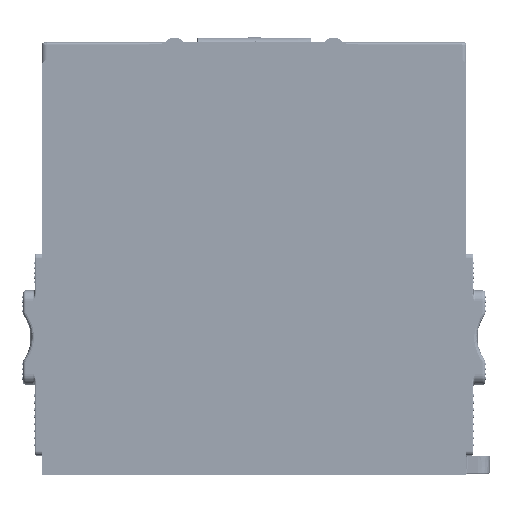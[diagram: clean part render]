
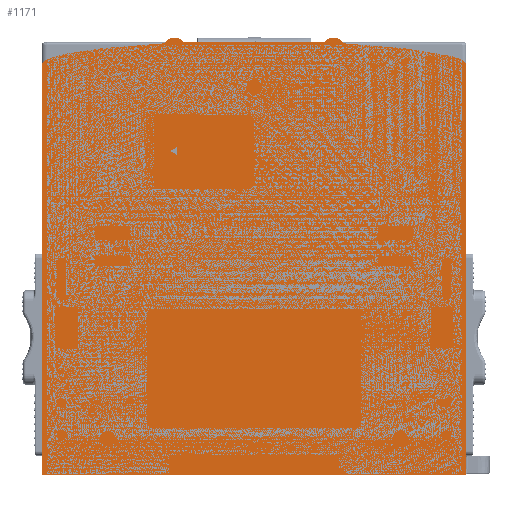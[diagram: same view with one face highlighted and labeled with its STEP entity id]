
A CAD part, left-side view. The second image highlights one B-rep face of the part: STEP entity #1171.
In plain terms, the highlighted planar face has unit normal (-1, 0, 0).
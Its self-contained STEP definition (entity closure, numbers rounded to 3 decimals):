
#16=DIRECTION('',(0.,-1.,0.));
#17=VECTOR('',#16,90.);
#18=CARTESIAN_POINT('',(-115.,45.,0.));
#19=LINE('',#18,#17);
#45=CARTESIAN_POINT('',(-115.,14.855,91.72));
#46=CARTESIAN_POINT('',(-115.,4.952,92.105));
#47=CARTESIAN_POINT('',(-115.,-4.952,92.105));
#48=CARTESIAN_POINT('',(-115.,-14.855,91.72));
#53=CARTESIAN_POINT('',(-115.,-16.865,90.232));
#54=DIRECTION('',(-1.,0.,0.));
#55=DIRECTION('',(0.,-0.854,0.52));
#56=AXIS2_PLACEMENT_3D('',#53,#54,#55);
#61=CARTESIAN_POINT('',(-115.,-19.,91.532));
#62=CARTESIAN_POINT('',(-115.,-21.432,91.407));
#63=CARTESIAN_POINT('',(-115.,-25.037,91.177));
#64=CARTESIAN_POINT('',(-115.,-29.732,90.765));
#65=CARTESIAN_POINT('',(-115.,-33.186,90.392));
#66=CARTESIAN_POINT('',(-115.,-35.993,90.014));
#67=CARTESIAN_POINT('',(-115.,-38.178,89.654));
#68=CARTESIAN_POINT('',(-115.,-39.779,89.348));
#69=CARTESIAN_POINT('',(-115.,-41.329,88.993));
#70=CARTESIAN_POINT('',(-115.,-42.559,88.64));
#71=CARTESIAN_POINT('',(-115.,-43.482,88.298));
#72=CARTESIAN_POINT('',(-115.,-44.127,87.998));
#73=CARTESIAN_POINT('',(-115.,-44.606,87.691));
#74=CARTESIAN_POINT('',(-115.,-44.901,87.363));
#75=CARTESIAN_POINT('',(-115.,-45.,87.152));
#76=CARTESIAN_POINT('',(-115.,-45.,87.));
#81=DIRECTION('',(0.,0.,1.));
#82=VECTOR('',#81,87.);
#83=CARTESIAN_POINT('',(-115.,45.,0.));
#84=LINE('',#83,#82);
#88=CARTESIAN_POINT('',(-115.,45.,87.));
#89=CARTESIAN_POINT('',(-115.,45.,87.152));
#90=CARTESIAN_POINT('',(-115.,44.901,87.363));
#91=CARTESIAN_POINT('',(-115.,44.606,87.691));
#92=CARTESIAN_POINT('',(-115.,44.127,87.998));
#93=CARTESIAN_POINT('',(-115.,43.482,88.298));
#94=CARTESIAN_POINT('',(-115.,42.559,88.64));
#95=CARTESIAN_POINT('',(-115.,41.329,88.993));
#96=CARTESIAN_POINT('',(-115.,39.779,89.348));
#97=CARTESIAN_POINT('',(-115.,38.178,89.654));
#98=CARTESIAN_POINT('',(-115.,35.993,90.014));
#99=CARTESIAN_POINT('',(-115.,33.186,90.392));
#100=CARTESIAN_POINT('',(-115.,29.732,90.765));
#101=CARTESIAN_POINT('',(-115.,25.037,91.177));
#102=CARTESIAN_POINT('',(-115.,21.432,91.407));
#103=CARTESIAN_POINT('',(-115.,19.,91.532));
#108=CARTESIAN_POINT('',(-115.,16.865,90.232));
#109=DIRECTION('',(-1.,0.,0.));
#110=DIRECTION('',(0.,-0.804,0.595));
#111=AXIS2_PLACEMENT_3D('',#108,#109,#110);
#351=DIRECTION('',(0.,0.,1.));
#352=VECTOR('',#351,87.);
#353=CARTESIAN_POINT('',(-115.,-45.,0.));
#354=LINE('',#353,#352);
#985=CARTESIAN_POINT('',(-115.,45.,0.));
#986=CARTESIAN_POINT('',(-115.,-45.,0.));
#987=VERTEX_POINT('',#985);
#988=VERTEX_POINT('',#986);
#1021=CARTESIAN_POINT('',(-115.,45.,87.));
#1022=VERTEX_POINT('',#1021);
#1023=CARTESIAN_POINT('',(-115.,-45.,87.));
#1024=VERTEX_POINT('',#1023);
#1061=VERTEX_POINT('',#103);
#1062=VERTEX_POINT('',#45);
#1063=VERTEX_POINT('',#48);
#1064=VERTEX_POINT('',#61);
#1149=CARTESIAN_POINT('',(-115.,45.,0.));
#1150=DIRECTION('',(-1.,0.,0.));
#1151=DIRECTION('',(0.,-1.,0.));
#1152=AXIS2_PLACEMENT_3D('',#1149,#1150,#1151);
#1153=PLANE('',#1152);
#1155=ORIENTED_EDGE('',*,*,#1154,.T.);
#1157=ORIENTED_EDGE('',*,*,#1156,.F.);
#1159=ORIENTED_EDGE('',*,*,#1158,.T.);
#1161=ORIENTED_EDGE('',*,*,#1160,.F.);
#1162=ORIENTED_EDGE('',*,*,#1138,.F.);
#1164=ORIENTED_EDGE('',*,*,#1163,.T.);
#1166=ORIENTED_EDGE('',*,*,#1165,.T.);
#1168=ORIENTED_EDGE('',*,*,#1167,.F.);
#1169=EDGE_LOOP('',(#1155,#1157,#1159,#1161,#1162,#1164,#1166,#1168));
#1170=FACE_OUTER_BOUND('',#1169,.F.);
#49=B_SPLINE_CURVE_WITH_KNOTS('',3,(#45,#46,#47,#48),.UNSPECIFIED.,.F.,.F.,(4,
4),(0.,1.),.UNSPECIFIED.);
#57=CIRCLE('',#56,2.5);
#77=B_SPLINE_CURVE_WITH_KNOTS('',3,(#61,#62,#63,#64,#65,#66,#67,#68,#69,#70,#71,
#72,#73,#74,#75,#76),.UNSPECIFIED.,.F.,.F.,(4,1,1,1,1,1,1,1,1,1,1,1,1,4),(0.,
0.25,0.375,0.5,0.625,0.688,0.75,0.813,0.875,0.906,
0.938,0.969,0.984,1.),.UNSPECIFIED.);
#104=B_SPLINE_CURVE_WITH_KNOTS('',3,(#88,#89,#90,#91,#92,#93,#94,#95,#96,#97,
#98,#99,#100,#101,#102,#103),.UNSPECIFIED.,.F.,.F.,(4,1,1,1,1,1,1,1,1,1,1,1,1,
4),(0.,0.016,0.031,0.063,0.094,0.125,0.188,0.25,0.313,
0.375,0.5,0.625,0.75,1.),.UNSPECIFIED.);
#112=CIRCLE('',#111,2.5);
#1138=EDGE_CURVE('',#987,#988,#19,.T.);
#1154=EDGE_CURVE('',#1062,#1063,#49,.T.);
#1156=EDGE_CURVE('',#1064,#1063,#57,.T.);
#1158=EDGE_CURVE('',#1064,#1024,#77,.T.);
#1160=EDGE_CURVE('',#988,#1024,#354,.T.);
#1163=EDGE_CURVE('',#987,#1022,#84,.T.);
#1165=EDGE_CURVE('',#1022,#1061,#104,.T.);
#1167=EDGE_CURVE('',#1062,#1061,#112,.T.);
#1171=ADVANCED_FACE('',(#1170),#1153,.T.);
